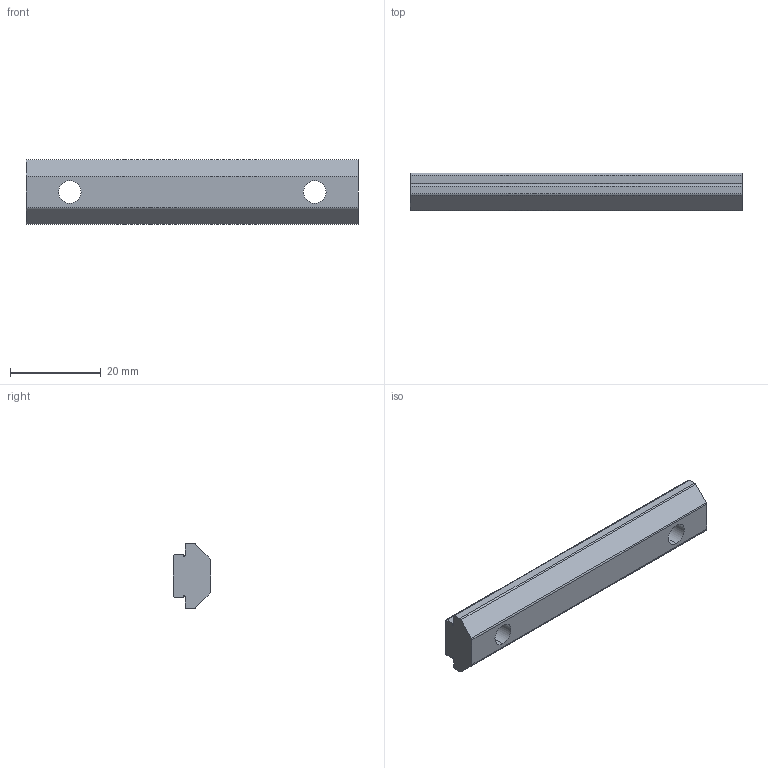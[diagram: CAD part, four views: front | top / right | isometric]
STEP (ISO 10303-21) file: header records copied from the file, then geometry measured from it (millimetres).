
FILE_DESCRIPTION((''),'2;1');
FILE_NAME('300536M','2023-02-28T',('jenni.wallner'),(''),'PRO/ENGINEER BY PARAMETRIC TECHNOLOGY CORPORATION, 2012420','PRO/ENGINEER BY PARAMETRIC TECHNOLOGY CORPORATION, 2012420','');
FILE_SCHEMA(('CONFIG_CONTROL_DESIGN'));
Length unit declared in the file: inch
Products named in the file (1): 300536M
Bounding box: 73.15 x 8.33 x 14.3 mm (x, y, z)
Volume: 6477.5 mm3; surface area: 3406.7 mm2
Topology: 1 solids, 1 shells, 29 faces, 81 edges, 54 vertices
Faces by surface type: cylinder 15, plane 14
Entity records: 993 total; most frequent: DIRECTION 169, CARTESIAN_POINT 164, ORIENTED_EDGE 162, EDGE_CURVE 81, AXIS2_PLACEMENT_3D 59, VERTEX_POINT 54, VECTOR 51, LINE 51
